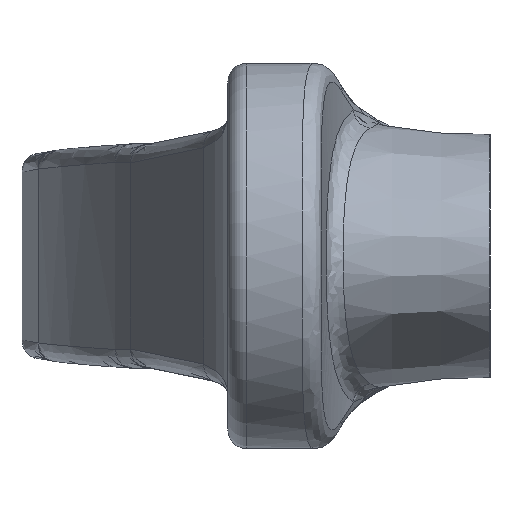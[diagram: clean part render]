
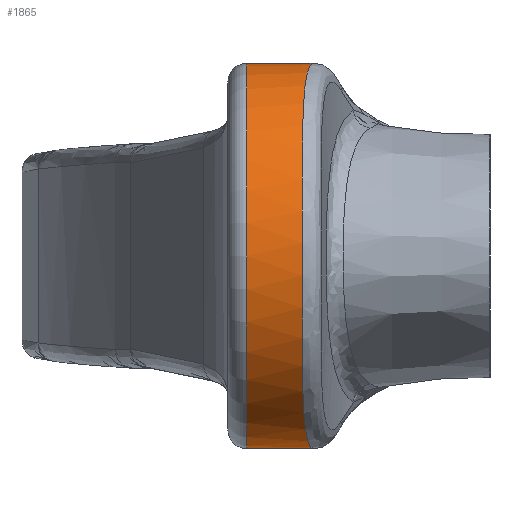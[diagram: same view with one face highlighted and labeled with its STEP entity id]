
A CAD part, left-side view. The second image highlights one B-rep face of the part: STEP entity #1865.
In plain terms, the highlighted cylindrical face has radius 10.3 mm (diameter 20.6 mm), a partial arc.
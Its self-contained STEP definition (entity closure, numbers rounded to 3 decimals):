
#184=B_SPLINE_CURVE_WITH_KNOTS('',3,(#5343,#5344,#5345,#5346,#5347,#5348,
#5349,#5350,#5351,#5352),.UNSPECIFIED.,.F.,.F.,(4,1,1,1,1,1,1,4),(-3.585,
-3.073,-2.561,-2.048,-1.536,-1.024,
-0.512,0.),.UNSPECIFIED.);
#314=CYLINDRICAL_SURFACE('',#2014,10.3);
#422=FACE_OUTER_BOUND('',#544,.T.);
#544=EDGE_LOOP('',(#1641,#1642,#1643,#1644));
#586=LINE('',#3595,#616);
#590=LINE('',#5375,#620);
#616=VECTOR('',#2182,10.);
#620=VECTOR('',#2266,10.);
#659=CIRCLE('',#1949,10.3);
#765=VERTEX_POINT('',#3256);
#767=VERTEX_POINT('',#3262);
#795=VERTEX_POINT('',#3594);
#859=VERTEX_POINT('',#5286);
#968=EDGE_CURVE('',#767,#765,#659,.T.);
#1020=EDGE_CURVE('',#765,#795,#586,.T.);
#1131=EDGE_CURVE('',#795,#859,#184,.T.);
#1133=EDGE_CURVE('',#767,#859,#590,.T.);
#1641=ORIENTED_EDGE('',*,*,#968,.F.);
#1642=ORIENTED_EDGE('',*,*,#1133,.T.);
#1643=ORIENTED_EDGE('',*,*,#1131,.F.);
#1644=ORIENTED_EDGE('',*,*,#1020,.F.);
#1865=ADVANCED_FACE('',(#422),#314,.T.);
#1949=AXIS2_PLACEMENT_3D('',#3264,#2117,#2118);
#2014=AXIS2_PLACEMENT_3D('',#5376,#2267,#2268);
#2117=DIRECTION('center_axis',(0.,1.,0.));
#2118=DIRECTION('ref_axis',(-1.,0.,0.));
#2182=DIRECTION('',(0.,-1.,0.));
#2266=DIRECTION('',(0.,-1.,0.));
#2267=DIRECTION('center_axis',(0.,-1.,0.));
#2268=DIRECTION('ref_axis',(-1.,0.,0.));
#3256=CARTESIAN_POINT('',(-68.678,13.,9.679));
#3262=CARTESIAN_POINT('',(-68.678,13.,-9.679));
#3264=CARTESIAN_POINT('Origin',(-72.2,13.,0.));
#3594=CARTESIAN_POINT('',(-68.678,8.885,9.679));
#3595=CARTESIAN_POINT('',(-68.678,25.004,9.679));
#5286=CARTESIAN_POINT('',(-68.678,8.885,-9.679));
#5343=CARTESIAN_POINT('Ctrl Pts',(-68.678,8.885,9.679));
#5344=CARTESIAN_POINT('Ctrl Pts',(-70.425,9.194,10.315));
#5345=CARTESIAN_POINT('Ctrl Pts',(-74.291,9.736,10.624));
#5346=CARTESIAN_POINT('Ctrl Pts',(-79.547,10.037,7.971));
#5347=CARTESIAN_POINT('Ctrl Pts',(-82.625,10.022,2.944));
#5348=CARTESIAN_POINT('Ctrl Pts',(-82.63,10.02,-2.945));
#5349=CARTESIAN_POINT('Ctrl Pts',(-79.544,10.037,-7.97));
#5350=CARTESIAN_POINT('Ctrl Pts',(-74.292,9.736,-10.624));
#5351=CARTESIAN_POINT('Ctrl Pts',(-70.425,9.194,-10.315));
#5352=CARTESIAN_POINT('Ctrl Pts',(-68.678,8.885,-9.679));
#5375=CARTESIAN_POINT('',(-68.678,25.004,-9.679));
#5376=CARTESIAN_POINT('Origin',(-72.2,25.004,0.));
